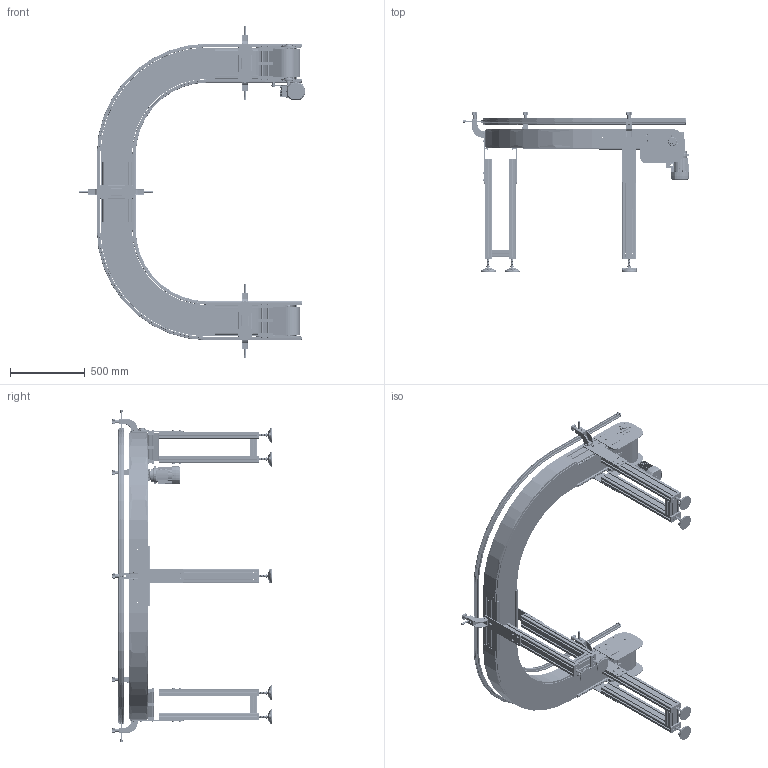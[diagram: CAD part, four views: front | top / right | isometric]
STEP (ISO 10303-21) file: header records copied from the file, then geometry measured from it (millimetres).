
FILE_DESCRIPTION (( 'STEP AP203' ), '1' );
FILE_NAME ('NASTRO_CATENA.step', '2026-04-20T17:34:46', ( 'Utente Windows' ), ( '' ), 'SwSTEP 2.0', 'SolidWorks 2024', '' );
FILE_SCHEMA (( 'CONFIG_CONTROL_DESIGN' ));
Length unit declared in the file: millimetre
Products named in the file (61): 2000.750.103-1; 2000.001.015-1; RUOTE DI TRAINO NS882_NS882T12R25; NASTRO_CATENA; 084.402.005; RONDELLE FASCIA LARGA UNI 6593 INOX_8.4x32 UNI 6593 INOX; VITI TSEI UNI 5933 INOX_0816UNI5933A2; 084.301.000 VITI ALUSIC_084.301.013; 2000.001.016; 084.709.002_084.709.002; K750_TC_1_Default<A macchina>; VITI TCEI UNI 5931 INOX_M8x25 UNI 5931 INOX; 2000.750.104; CATENA_USX; 084.802.027; VITI TSEI UNI 5933 INOX_0825UNI5933A2; 084.808.004; 2000.001.017; VITI TSEI UNI 5933 INOX_0420UNI5933A2; K750_TC_3_Default<A macchina>; RONDELLE UNI 6592 INOX_8.4x18 UNI 6592 INOX; 2000.001.401_Default<Lavorato>; K750_R_P; K750_DIR_49_P_SX_VERSIONE SX; RONDELLE FASCIA LARGA UNI 6593 INOX_8.4x24 UNI 6593 INOX; 084.712.002; 2000.001.013; VITI TE UNI 5739 INOX_M8x20 UNI 5739 INOX; 2000.001.211; CHIAVETTE_A 8x7x70 UNI 6604-69; K750_90°_D_P; K750_CC_2_Default<A macchina>; VITI TE UNI 5739 INOX_M6x20 UNI 5739 INOX; VITI TE UNI 5739_M8x20 UNI 5739; 084.711.002; 2000.750.404_2000.750.404; CH05P_SX; 2000.001.210; 084.302.016; 2000.750.491_MONTAGGIO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
Assembly tree (208 placements, depth 3):
  NASTRO_CATENA
    K750_TC_1_Default<A macchina>
    K750_CC_2_Default<A macchina>
    K750_TC_3_Default<A macchina>
    K750_DIR_49_P_SX_VERSIONE SX
      2000.001.013
      2000.001.015-1  x3
      084.802.027
      2000.750.104  x2
      2000.001.016  x2
      2000.001.017
      084.808.004
      CHIAVETTE_A 8x7x70 UNI 6604-69
      SBPF 205  x2
      RUOTE DI TRAINO NS882_NS882T12R25
      VITI TE UNI 5739 INOX_M8x20 UNI 5739 INOX  x8
      RONDELLE UNI 6592 INOX_8.4x18 UNI 6592 INOX  x6
      VITI TE UNI 5739 INOX_M6x20 UNI 5739 INOX  x4
      RONDELLE UNI 6592 INOX_6.4x12.5 UNI 6592 INOX  x4
      RONDELLE FASCIA LARGA UNI 6593 INOX_8.4x32 UNI 6593 INOX
      RONDELLE FASCIA LARGA UNI 6593 INOX_8.4x24 UNI 6593 INOX
      VITI TE UNI 5739 INOX_M6x12 UNI 5739 INOX  x4
      VITI TSEI UNI 5933 INOX_0420UNI5933A2  x8
      VITI TSEI UNI 5933 INOX_0816UNI5933A2  x6
      084.302.016  x4
      2000.750.103-1
      2000.001.102-1
      VITI TCEI UNI 5931 INOX_M8x25 UNI 5931 INOX  x2
    K750_90°_D_P  x2
      2000.750.404_2000.750.404
      2000.001.401_Default<Lavorato>
      084.301.000 VITI ALUSIC_084.301.013
      2000.750.491_MONTAGGIO
      2000.750.492_MONTAGGIO
    K750_R_P
      2000.750.201-1
      2000.750.104  x2
      2000.001.210
      2000.001.211
      2000.001.016  x2
      2000.001.015-1  x3
      RUOTE DI TRAINO NS882_NS882T12R25
      VITI TSEI UNI 5933 INOX_0420UNI5933A2  x8
      VITI TSEI UNI 5933 INOX_0820UNI5933A2  x8
      VITI TSEI UNI 5933 INOX_0825UNI5933A2  x2
      084.302.000 DADI ALUSIC LUNGHI_084.302.016  x4
      RONDELLE UNI 6592 INOX_6.4x12.5 UNI 6592 INOX  x4
      VITI TE UNI 5739 INOX_M6x20 UNI 5739 INOX  x4
    GAMBE_K750_Default<A macchina>  x3
    FLANGIA_GAMBE_K750_CON GIUNTI  x6
      084.709.002_084.709.002
      084.302.000 DADI ALUSIC 13x13-1_084.302.004
      RONDELLE UNI 6592_8.4x17 UNI 6592
      084.301.000 VITI ALUSIC1_084.301.003
    PIEDE_K750  x6
      084.405.001
      084.402.005
      084.301.000 VITI ALUSIC1_084.301.003
    084.201.019-2  x6
    SPONDA_U_SX_Default<A macchina>
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Bounding box: 1507.36 x 1069.2 x 2216.12 mm (x, y, z)
Volume: 54363688 mm3; surface area: 17891058.2 mm2
Topology: 405 solids, 408 shells, 17413 faces, 45206 edges, 28776 vertices
Faces by surface type: plane 7327, cylinder 7250, cone 1091, torus 903, bspline 726, sphere 116
Entity records: 251873 total; most frequent: CARTESIAN_POINT 77648, ORIENTED_EDGE 34930, DIRECTION 33893, EDGE_CURVE 17474, AXIS2_PLACEMENT_3D 11967, VERTEX_POINT 11133, VECTOR 9959, LINE 9959
